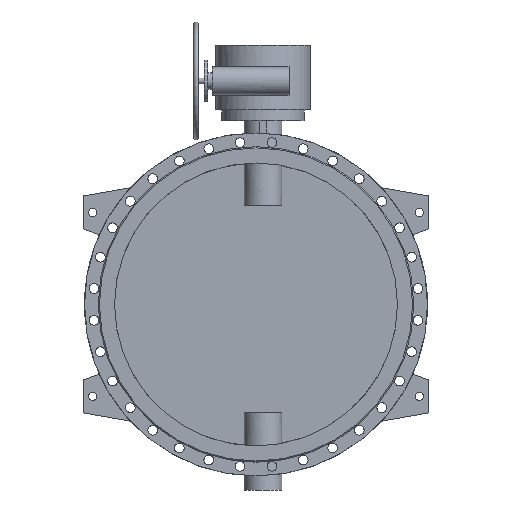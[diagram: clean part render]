
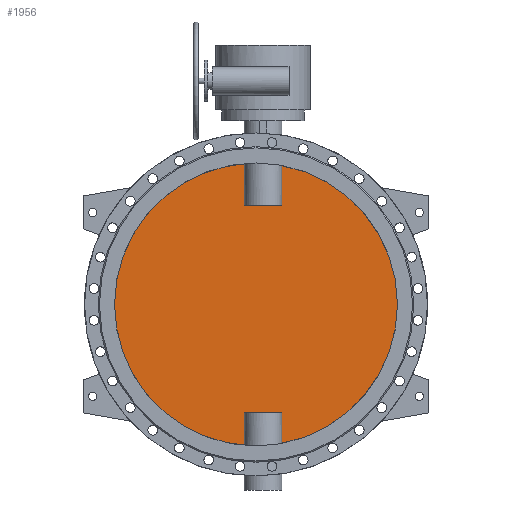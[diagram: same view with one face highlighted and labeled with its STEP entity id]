
A CAD part, front view. The second image highlights one B-rep face of the part: STEP entity #1956.
In plain terms, the highlighted planar face has unit normal (0, -1, 0).
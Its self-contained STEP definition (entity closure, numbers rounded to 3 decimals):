
#1956=ADVANCED_FACE('',(#4149),#4151,.F.);
#4149=FACE_BOUND('',#4150,.T.);
#4150=EDGE_LOOP('',(#5172,#5173,#5174,#5175,#5176,#5177,#5178,#5179));
#4151=PLANE('',#4152);
#4152=AXIS2_PLACEMENT_3D('',#4153,#4154,#4155);
#4153=CARTESIAN_POINT('',(0.,-5.,0.));
#4154=DIRECTION('',(0.,1.,0.));
#4155=DIRECTION('',(1.,0.,0.));
#5172=ORIENTED_EDGE('',*,*,#5663,.T.);
#5173=ORIENTED_EDGE('',*,*,#5669,.T.);
#5174=ORIENTED_EDGE('',*,*,#5670,.T.);
#5175=ORIENTED_EDGE('',*,*,#5671,.T.);
#5176=ORIENTED_EDGE('',*,*,#5665,.T.);
#5177=ORIENTED_EDGE('',*,*,#5672,.T.);
#5178=ORIENTED_EDGE('',*,*,#5673,.T.);
#5179=ORIENTED_EDGE('',*,*,#5674,.T.);
#5663=EDGE_CURVE('',#6493,#6494,#6495,.F.);
#5665=EDGE_CURVE('',#6498,#6496,#6499,.F.);
#5669=EDGE_CURVE('',#6494,#6505,#6506,.T.);
#5670=EDGE_CURVE('',#6505,#6507,#6508,.F.);
#5671=EDGE_CURVE('',#6507,#6498,#6509,.F.);
#5672=EDGE_CURVE('',#6496,#6510,#6511,.F.);
#5673=EDGE_CURVE('',#6510,#6512,#6513,.F.);
#5674=EDGE_CURVE('',#6512,#6493,#6514,.T.);
#6493=VERTEX_POINT('',#9456);
#6494=VERTEX_POINT('',#9457);
#6495=CIRCLE('',#9458,600.);
#6496=VERTEX_POINT('',#9462);
#6498=VERTEX_POINT('',#9556);
#6499=CIRCLE('',#9557,600.);
#6505=VERTEX_POINT('',#9665);
#6506=LINE('',#9666,#9667);
#6507=VERTEX_POINT('',#9669);
#6508=LINE('',#9670,#9671);
#6509=LINE('',#9673,#9674);
#6510=VERTEX_POINT('',#9676);
#6511=LINE('',#9677,#9678);
#6512=VERTEX_POINT('',#9680);
#6513=LINE('',#9681,#9682);
#6514=LINE('',#9684,#9685);
#9456=CARTESIAN_POINT('',(109.844,-5.,-589.86));
#9457=CARTESIAN_POINT('',(109.844,-5.,589.86));
#9458=AXIS2_PLACEMENT_3D('',#9459,#9460,#9461);
#9459=CARTESIAN_POINT('',(0.,-5.,0.));
#9460=DIRECTION('',(0.,1.,0.));
#9461=DIRECTION('',(0.183,0.,0.983));
#9462=CARTESIAN_POINT('',(-49.844,-5.,-597.926));
#9556=CARTESIAN_POINT('',(-49.844,-5.,597.926));
#9557=AXIS2_PLACEMENT_3D('',#9558,#9559,#9560);
#9558=CARTESIAN_POINT('',(0.,-5.,0.));
#9559=DIRECTION('',(0.,1.,0.));
#9560=DIRECTION('',(-0.083,0.,-0.997));
#9665=CARTESIAN_POINT('',(109.844,-5.,420.));
#9666=CARTESIAN_POINT('',(109.844,-5.,589.86));
#9667=VECTOR('',#9668,1.);
#9668=DIRECTION('',(0.,0.,-1.));
#9669=CARTESIAN_POINT('',(-49.844,-5.,420.));
#9670=CARTESIAN_POINT('',(-49.844,-5.,420.));
#9671=VECTOR('',#9672,1.);
#9672=DIRECTION('',(1.,0.,0.));
#9673=CARTESIAN_POINT('',(-49.844,-5.,597.926));
#9674=VECTOR('',#9675,1.);
#9675=DIRECTION('',(0.,0.,-1.));
#9676=CARTESIAN_POINT('',(-49.844,-5.,-460.));
#9677=CARTESIAN_POINT('',(-49.844,-5.,-460.));
#9678=VECTOR('',#9679,1.);
#9679=DIRECTION('',(0.,0.,-1.));
#9680=CARTESIAN_POINT('',(109.844,-5.,-460.));
#9681=CARTESIAN_POINT('',(109.844,-5.,-460.));
#9682=VECTOR('',#9683,1.);
#9683=DIRECTION('',(-1.,0.,0.));
#9684=CARTESIAN_POINT('',(109.844,-5.,-460.));
#9685=VECTOR('',#9686,1.);
#9686=DIRECTION('',(0.,0.,-1.));
